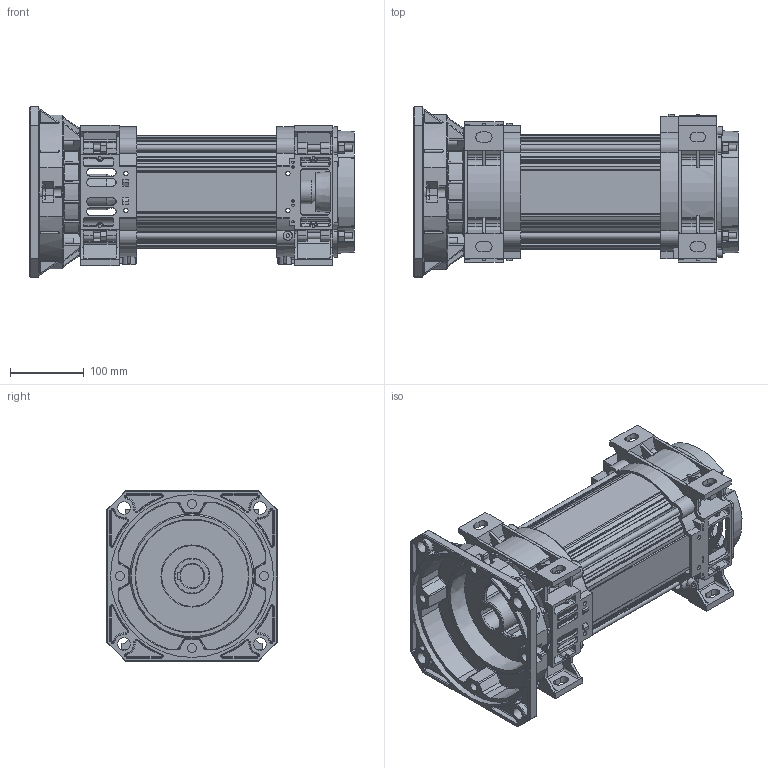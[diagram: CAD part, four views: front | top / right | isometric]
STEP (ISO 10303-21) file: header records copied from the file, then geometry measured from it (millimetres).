
FILE_DESCRIPTION(/* description */ ('Motore Tipo S46 Fl.220 F32-H210 NO Volano NO Piedi'),/* implementation_level */ '2;1');
FILE_NAME(/* name */ 'Y:\ServerTecnico\Mockup Motori x Sito Elmo\Mockup Tipo S46 Size 1 FL220 F32-H210 NO Volano.stp',/* time_stamp */ '2016-10-06T11:28:48+02:00',/* author */ ('aparmini'),/* organization */ (''),/* preprocessor_version */ 'ST-DEVELOPER v16.5',/* originating_system */ 'Autodesk Inventor 2017',/* authorisation */ '');
FILE_SCHEMA (('AUTOMOTIVE_DESIGN { 1 0 10303 214 3 1 1 }'));
Products named in the file (10): Mockup Tipo S46 Size 1 FL220 F32-H210 NO Volano; Mockup Statore Size 1 - F32-H210 NO Volano; TGS10; FA1D220NA-01-07-2015; CA1VS-DSEMI 220 01-07-2015; SEMI FA1SD220N; Mockup CP1XD040N; TI08ML350; UNI 5587 - M8; DIN 125-2 - B 8,4
Assembly tree (22 placements, depth 3):
  Mockup Tipo S46 Size 1 FL220 F32-H210 NO Volano
    Mockup Statore Size 1 - F32-H210 NO Volano
    TGS10
    FA1D220NA-01-07-2015
      CA1VS-DSEMI 220 01-07-2015
      SEMI FA1SD220N
    Mockup CP1XD040N
    UNI 5587 - M8  x8
    TI08ML350  x4
    DIN 125-2 - B 8,4  x4
Bounding box: 439 x 230 x 230 mm (x, y, z)
Volume: 5861111.1 mm3; surface area: 898744.1 mm2
Topology: 21 solids, 21 shells, 2712 faces, 7241 edges, 4577 vertices
Faces by surface type: plane 1098, cylinder 982, cone 289, bspline 223, torus 104, sphere 16
Full cylindrical faces by diameter (mm): 3.2 x5, 4 x8, 4.917 x2, 5 x4, 6.2 x8, 6.647 x8, 8 x4, 8.4 x4, 10 x8, 12 x8, 16 x4, 17 x5, 21 x1, 32 x2, 38 x1, 48 x1, 82 x2, 220 x1
Entity records: 86742 total; most frequent: CARTESIAN_POINT 22463, DIRECTION 13630, ORIENTED_EDGE 13446, EDGE_CURVE 6711, AXIS2_PLACEMENT_3D 5026, VERTEX_POINT 4328, LINE 3578, VECTOR 3578
